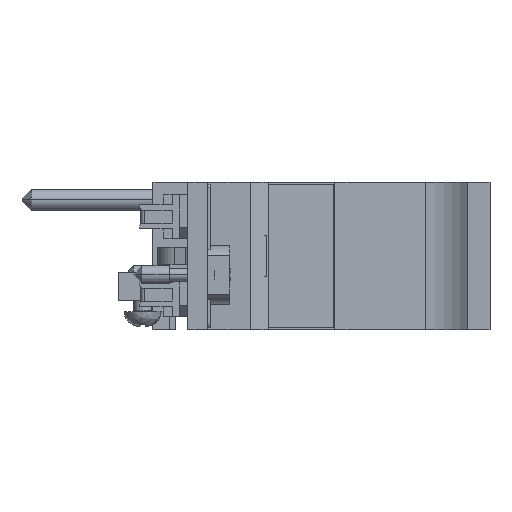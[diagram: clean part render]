
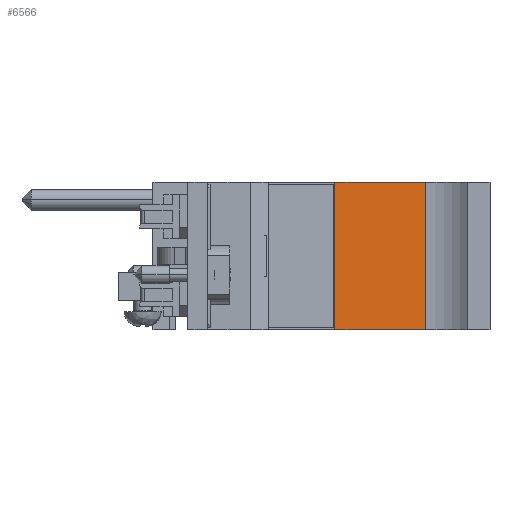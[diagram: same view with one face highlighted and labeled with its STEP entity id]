
A CAD part, front view. The second image highlights one B-rep face of the part: STEP entity #6566.
In plain terms, the highlighted planar face has unit normal (0.065, -0.998, 0).
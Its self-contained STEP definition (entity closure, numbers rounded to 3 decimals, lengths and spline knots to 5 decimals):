
#437=DIRECTION('',(-0.998,-0.065,0.));
#438=VECTOR('',#437,0.48638);
#439=CARTESIAN_POINT('',(1.29144,3.75062,0.63279));
#440=LINE('',#439,#438);
#727=DIRECTION('',(-0.998,-0.065,0.));
#728=VECTOR('',#727,0.48638);
#729=CARTESIAN_POINT('',(1.29144,3.75062,-0.15521));
#730=LINE('',#729,#728);
#902=DIRECTION('',(0.,0.,1.));
#903=VECTOR('',#902,0.788);
#904=CARTESIAN_POINT('',(0.8061,3.71884,
-0.15521));
#905=LINE('',#904,#903);
#906=DIRECTION('',(0.,0.,-1.));
#907=VECTOR('',#906,0.788);
#908=CARTESIAN_POINT('',(1.29144,3.75062,0.63279));
#909=LINE('',#908,#907);
#5054=CARTESIAN_POINT('',(1.29144,3.75062,
-0.15521));
#5055=VERTEX_POINT('',#5054);
#5060=CARTESIAN_POINT('',(1.29144,3.75062,0.63279));
#5061=VERTEX_POINT('',#5060);
#5172=CARTESIAN_POINT('',(0.8061,3.71884,
-0.15521));
#5173=VERTEX_POINT('',#5172);
#5180=CARTESIAN_POINT('',(0.8061,3.71884,
0.63279));
#5181=VERTEX_POINT('',#5180);
#6554=CARTESIAN_POINT('',(1.29144,3.75062,0.63279));
#6555=DIRECTION('',(-0.065,0.998,0.));
#6556=DIRECTION('',(-0.998,-0.065,0.));
#6557=AXIS2_PLACEMENT_3D('',#6554,#6555,#6556);
#6558=PLANE('',#6557);
#6559=ORIENTED_EDGE('',*,*,#6549,.T.);
#6560=ORIENTED_EDGE('',*,*,#6088,.F.);
#6562=ORIENTED_EDGE('',*,*,#6561,.T.);
#6563=ORIENTED_EDGE('',*,*,#6444,.T.);
#6564=EDGE_LOOP('',(#6559,#6560,#6562,#6563));
#6565=FACE_OUTER_BOUND('',#6564,.F.);
#6566=ADVANCED_FACE('',(#6565),#6558,.F.);
#6088=EDGE_CURVE('',#5061,#5181,#440,.T.);
#6444=EDGE_CURVE('',#5055,#5173,#730,.T.);
#6549=EDGE_CURVE('',#5173,#5181,#905,.T.);
#6561=EDGE_CURVE('',#5061,#5055,#909,.T.);
